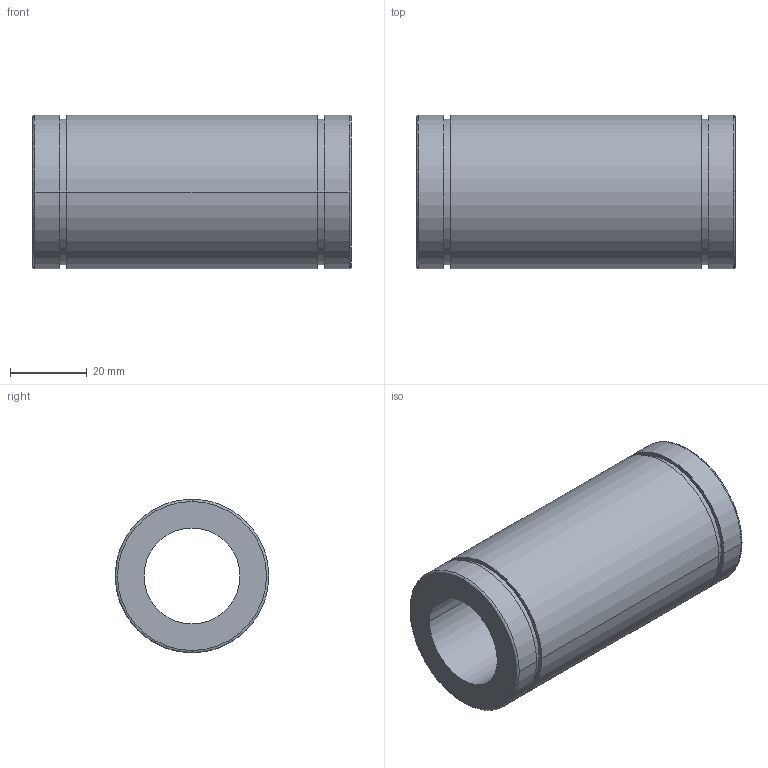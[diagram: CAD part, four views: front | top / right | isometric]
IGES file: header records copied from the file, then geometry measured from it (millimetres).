
Start section: 3D InterOp IGES (Version 21 0 1), Spatial Corp. Copyright (c) 1999-2007.
Global section: file name: N-25VM.igs; native system: Spatial Corp.; preprocessor: 3D InterOp GENERIC/IGES 3.0; author: Noname; organization: Noname; date: 20220516.092622; units: millimetre
Bounding box: 83 x 40 x 40 mm (x, y, z)
Surface area: 18881.6 mm2 (no closed solid volume)
Topology: 0 solids, 0 shells, 22 faces, 100 edges, 100 vertices
Faces by surface type: revolution 16, extrusion 6
